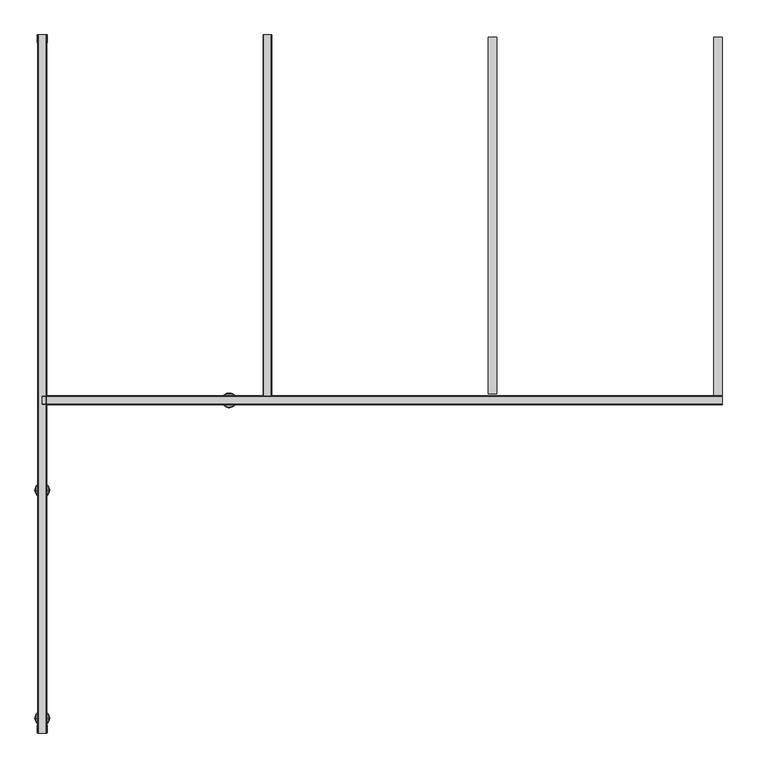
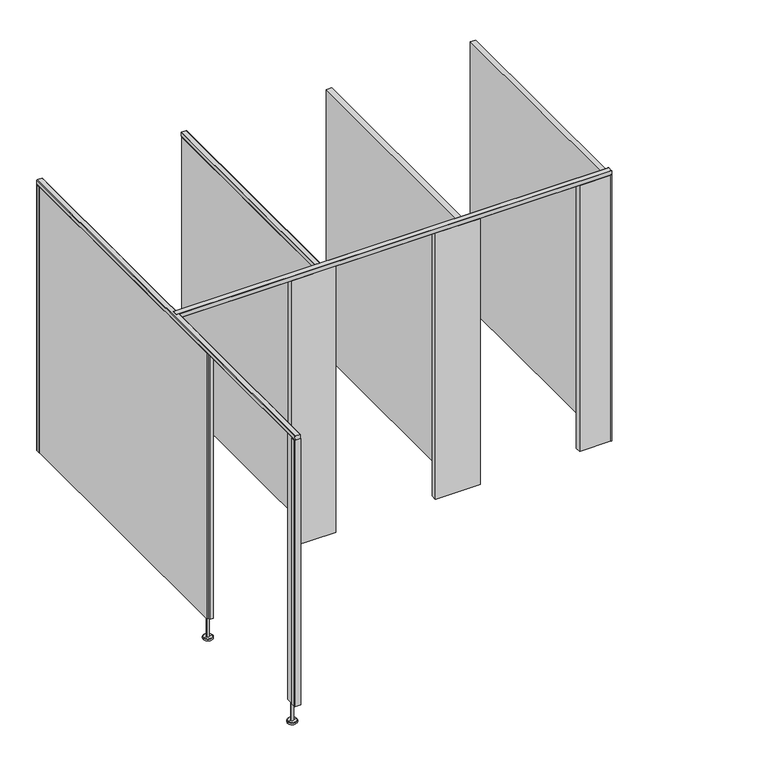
"""IFC4 building model written with IfcOpenShell, lengths in millimetres: proxy geometry, Partition_EuroStyle-Bradley_Corp-ADA_Alcove_3StandardStall-LOFT : Partition_EuroStyle-Bradley_Corp-ADA_Alcove_3StandardStall-LOFT."""

import ifcopenshell
import ifcopenshell.guid

model = None  # the IFC model being written
_history = None  # IfcOwnerHistory: only IFC2X3 demands one
_inside = {}  # id of a spatial element -> (the spatial element, [elements in it])
_under = {}  # id of a project, library or spatial element -> (it, [spatial elements below it])
_declared = {}  # id of a project -> (the project, [libraries it declares])
_typed = {}  # id of a type object -> (the type object, [elements of that type])
_made_of = {}  # id of a material, layer set ... -> (it, [elements and type objects made of it])


def new_model(schema):
    """Start an empty IFC model of exactly this schema.

    Asked for "IFC4X3", IfcOpenShell would pick the latest addendum, in which some entities
    have other attributes; the version numbers below select the first issue.
    IFC2X3 requires an IfcOwnerHistory on every rooted entity: one is made here for all.
    """
    global model, _history
    if schema == "IFC4X3":
        model = ifcopenshell.file(schema_version=(4, 3, 0, 0))
    else:
        model = ifcopenshell.file(schema=schema)
    _inside.clear()
    _under.clear()
    _declared.clear()
    _typed.clear()
    _made_of.clear()
    _history = None
    if model.schema == "IFC2X3":
        org = make("IfcOrganization", Name="unknown")
        user = make(
            "IfcPersonAndOrganization",
            ThePerson=make("IfcPerson", FamilyName="unknown"),
            TheOrganization=org,
        )
        app = make(
            "IfcApplication",
            ApplicationDeveloper=org,
            Version="unknown",
            ApplicationFullName="unknown",
            ApplicationIdentifier="unknown",
        )
        _history = make(
            "IfcOwnerHistory",
            OwningUser=user,
            OwningApplication=app,
            ChangeAction="ADDED",
            CreationDate=0,
        )
    return model


def make(cls, **values):
    """One entity of the class cls with the attributes given. An attribute that is None is left unset."""
    return model.create_entity(
        cls, **{name: value for name, value in values.items() if value is not None}
    )


def rooted(cls, **values):
    """An entity with a GlobalId (a new one), such as an element, a storey or a relation."""
    return make(cls, GlobalId=ifcopenshell.guid.new(), OwnerHistory=_history, **values)


def si_unit(unit_type, name, prefix=None):
    """IfcSIUnit, for example si_unit("LENGTHUNIT", "METRE", prefix="MILLI")."""
    return make("IfcSIUnit", UnitType=unit_type, Prefix=prefix, Name=name)


def assignment(units):
    """IfcUnitAssignment: the units of a project."""
    return None if units is None else make("IfcUnitAssignment", Units=units)


def point(xyz):
    """IfcCartesianPoint."""
    return None if xyz is None else make("IfcCartesianPoint", Coordinates=xyz)


def direction(xyz):
    """IfcDirection."""
    return None if xyz is None else make("IfcDirection", DirectionRatios=xyz)


def frame(location, z_axis=None, x_axis=None):
    """IfcAxis2Placement3D, a coordinate frame: its origin and axes. An axis left out is left unset."""
    return make(
        "IfcAxis2Placement3D",
        Location=point(location),
        Axis=direction(z_axis),
        RefDirection=direction(x_axis),
    )


def frame_2d(location, x_axis=None):
    """IfcAxis2Placement2D, a coordinate frame in the plane: its origin and x axis."""
    return make(
        "IfcAxis2Placement2D", Location=point(location), RefDirection=direction(x_axis)
    )


def origin():
    """The frame at (0, 0, 0) with its axes left unset."""
    return frame((0.0, 0.0, 0.0))


def place(relative_to, where):
    """IfcLocalPlacement: puts the frame where relative to a parent placement (None: the world)."""
    return make(
        "IfcLocalPlacement", PlacementRelTo=relative_to, RelativePlacement=where
    )


def context(
    kind, dimensions, precision=None, world=None, true_north=None, identifier=None
):
    """IfcGeometricRepresentationContext, for example the 3D "Model" context."""
    return make(
        "IfcGeometricRepresentationContext",
        ContextIdentifier=identifier,
        ContextType=kind,
        CoordinateSpaceDimension=dimensions,
        Precision=precision,
        WorldCoordinateSystem=world,
        TrueNorth=true_north,
    )


def project(units=None, contexts=None):
    """IfcProject with its units and contexts."""
    return rooted(
        "IfcProject",
        Name="project",
        RepresentationContexts=contexts,
        UnitsInContext=assignment(units),
    )


def spatial(cls, under=None, at=None, **own):
    """A site, building, storey or space (cls), placed at a placement, below another one or the project."""
    s = rooted(cls, ObjectPlacement=at, **own)
    if under is not None:
        _under.setdefault(under.id(), (under, []))[1].append(s)
    return s


def polyline(points):
    """IfcPolyline through the points."""
    return make("IfcPolyline", Points=[point(p) for p in points])


def circle_curve(where, radius):
    """IfcCircle in the frame where."""
    return make("IfcCircle", Position=where, Radius=radius)


def trimmed(basis, trim1, trim2, sense, master):
    """IfcTrimmedCurve: the piece of a basis curve between two trims."""
    return make(
        "IfcTrimmedCurve",
        BasisCurve=basis,
        Trim1=trim1,
        Trim2=trim2,
        SenseAgreement=sense,
        MasterRepresentation=master,
    )


def segment(curve, same_sense, transition):
    """IfcCompositeCurveSegment."""
    return make(
        "IfcCompositeCurveSegment",
        Transition=transition,
        SameSense=same_sense,
        ParentCurve=curve,
    )


def composite_curve(segments, self_intersect=None):
    """IfcCompositeCurve: segments joined end to end."""
    return make("IfcCompositeCurve", Segments=segments, SelfIntersect=self_intersect)


def outline(outer, holes=None, kind="AREA"):
    """IfcArbitraryClosedProfileDef: a profile drawn as a closed curve; with holes, ...WithVoids."""
    if holes is None:
        return make("IfcArbitraryClosedProfileDef", ProfileType=kind, OuterCurve=outer)
    return make(
        "IfcArbitraryProfileDefWithVoids",
        ProfileType=kind,
        OuterCurve=outer,
        InnerCurves=holes,
    )


def extrude(swept, where, along, depth):
    """IfcExtrudedAreaSolid: the profile swept, set in the frame where, extruded along a direction by depth."""
    return make(
        "IfcExtrudedAreaSolid",
        SweptArea=swept,
        Position=where,
        ExtrudedDirection=direction(along),
        Depth=depth,
    )


def shape(context_of_items, identifier, shape_type, items):
    """IfcShapeRepresentation: the items that make up one representation, for example the "Body"."""
    return make(
        "IfcShapeRepresentation",
        ContextOfItems=context_of_items,
        RepresentationIdentifier=identifier,
        RepresentationType=shape_type,
        Items=items,
    )


def source(mapping_origin, context_of_items, identifier, shape_type, items):
    """IfcRepresentationMap: a shape defined once, which mapped items show again and again."""
    return make(
        "IfcRepresentationMap",
        MappingOrigin=mapping_origin,
        MappedRepresentation=shape(context_of_items, identifier, shape_type, items),
    )


def transform(
    local_origin,
    x_axis=None,
    y_axis=None,
    z_axis=None,
    scale=None,
    scale2=None,
    scale3=None,
    uniform=True,
):
    """IfcCartesianTransformationOperator3D, or its non-uniform kind. x_axis, y_axis, z_axis: its Axis1, 2, 3."""
    if uniform:
        return make(
            "IfcCartesianTransformationOperator3D",
            Axis1=direction(x_axis),
            Axis2=direction(y_axis),
            LocalOrigin=point(local_origin),
            Scale=scale,
            Axis3=direction(z_axis),
        )
    return make(
        "IfcCartesianTransformationOperator3DnonUniform",
        Axis1=direction(x_axis),
        Axis2=direction(y_axis),
        LocalOrigin=point(local_origin),
        Scale=scale,
        Axis3=direction(z_axis),
        Scale2=scale2,
        Scale3=scale3,
    )


def mapped(mapping_source, mapping_target):
    """IfcMappedItem: shows the shape of a source again, moved by a transform."""
    return make(
        "IfcMappedItem", MappingSource=mapping_source, MappingTarget=mapping_target
    )


def made_of(thing, what):
    """Note that an element or type object is made of a material, layer set ...; save() writes the relation."""
    if what is not None:
        _made_of.setdefault(what.id(), (what, []))[1].append(thing)
    return thing


def element(
    cls,
    number,
    at=None,
    inside=None,
    cuts=None,
    type_object=None,
    material=None,
    context=None,
    identifier="Body",
    shape_type=None,
    held_by="IfcProductDefinitionShape",
    body=None,
    shapes=None,
    **own,
):
    """One element of the class cls, such as IfcWall. Its Tag is "e" and its number.

    at: its placement. inside: the storey or other place that contains it. cuts: it is an
    opening in that element (IfcRelVoidsElement). A single representation is given by context,
    identifier, shape_type and body (its items); several are given by shapes. held_by: the class
    of the entity that holds the representations. save() writes the other relations.
    """
    e = rooted(cls, Tag="e%d" % number, ObjectPlacement=at, **own)
    if body is not None:
        shapes = [shape(context, identifier, shape_type, body)]
    if shapes is not None:
        e.Representation = make(held_by, Representations=shapes)
    if inside is not None:
        _inside.setdefault(inside.id(), (inside, []))[1].append(e)
    if cuts is not None:
        rooted(
            "IfcRelVoidsElement", RelatingBuildingElement=cuts, RelatedOpeningElement=e
        )
    if type_object is not None:
        _typed.setdefault(type_object.id(), (type_object, []))[1].append(e)
    return made_of(e, material)


def aggregate(whole, parts):
    """IfcRelAggregates: a whole, such as a stair, and the parts it consists of."""
    return rooted("IfcRelAggregates", RelatingObject=whole, RelatedObjects=parts)


def save(model, path):
    """Write the relations noted so far, then the file.

    IfcRelAggregates (storeys below a building ...), IfcRelContainedInSpatialStructure (elements
    in a storey), IfcRelDefinesByType, IfcRelAssociatesMaterial and IfcRelDeclares: one each for
    every whole, place, type object, material and project.
    """
    for whole, parts in _under.values():
        aggregate(whole, parts)
    for where, things in _inside.values():
        rooted(
            "IfcRelContainedInSpatialStructure",
            RelatedElements=things,
            RelatingStructure=where,
        )
    for kind, things in _typed.values():
        rooted("IfcRelDefinesByType", RelatedObjects=things, RelatingType=kind)
    for what, things in _made_of.values():
        rooted("IfcRelAssociatesMaterial", RelatedObjects=things, RelatingMaterial=what)
    for by, libraries in _declared.values():
        rooted("IfcRelDeclares", RelatingContext=by, RelatedDefinitions=libraries)
    model.write(path)


def plane_surface(at):
    """IfcPlane: the flat surface through the origin of the frame at, square to its z axis."""
    return make("IfcPlane", Position=at)


def cylinder_surface(at, radius):
    """IfcCylindricalSurface: all points at the distance radius from the z axis of the frame at."""
    return make("IfcCylindricalSurface", Position=at, Radius=radius)


def revolved_surface(curve, axis_point, axis_direction):
    """IfcSurfaceOfRevolution: the curve turned about the line through axis_point along axis_direction."""
    return make(
        "IfcSurfaceOfRevolution",
        SweptCurve=make("IfcArbitraryOpenProfileDef", ProfileType="CURVE", Curve=curve),
        AxisPosition=make("IfcAxis1Placement", Location=point(axis_point), Axis=direction(axis_direction)),
    )


def advanced_brep(points, edges, surfaces, faces):
    """IfcAdvancedBrep: a solid bounded by faces that lie on surfaces and meet in shared edges.

    An edge is (start, end): straight between two places in points (the first is 0);
    or (start, end, curve); or (start, end, curve, False) where it runs against its curve.
    A face is (place in surfaces, loops), or (place, loops, False) where it looks against
    its surface's normal. A loop lists edges by number (the first is 1), with a minus sign
    where the edge is run from its end to its start. The first loop is the outer one.
    """
    corners = [point(p) for p in points]
    vertices = [make("IfcVertexPoint", VertexGeometry=c) for c in corners]
    made = []
    for start, end, *more in edges:
        made.append(
            make(
                "IfcEdgeCurve",
                EdgeStart=vertices[start],
                EdgeEnd=vertices[end],
                EdgeGeometry=more[0] if more else make("IfcPolyline", Points=[corners[start], corners[end]]),
                SameSense=more[1] if len(more) > 1 else True,
            )
        )
    hull = []
    for where, loops, *sense in faces:
        bounds = []
        for j, loop in enumerate(loops):
            ring = [make("IfcOrientedEdge", EdgeElement=made[abs(k) - 1], Orientation=k > 0) for k in loop]
            bounds.append(
                make(
                    "IfcFaceOuterBound" if j == 0 else "IfcFaceBound",
                    Bound=make("IfcEdgeLoop", EdgeList=ring),
                    Orientation=True,
                )
            )
        hull.append(make("IfcAdvancedFace", Bounds=bounds, FaceSurface=surfaces[where], SameSense=sense[0] if sense else True))
    return make("IfcAdvancedBrep", Outer=make("IfcClosedShell", CfsFaces=hull))


def specialty_equipment_9ecc551c(model_context):
    return source(origin(), model_context, "Body", "SolidModel", [
        advanced_brep(
        [(1558.4101629, -2882.9018313, 150.0000008), (1576.4101623, -2882.9018313, 150.0000008), (1576.4101623, -2882.9018313, 12.0000001), (1558.4101629, -2882.9018313, 12.0000001), (1567.4101626, -2882.9018313, 150.0000008), (1536.4101636, -2882.9018313, 0.0), (1598.4101615, -2882.9018313, 0.0), (1567.4101626, -2882.9018313, 0.0), (1536.4101636, -2882.9018313, 10.0000001), (1598.4101615, -2882.9018313, 10.0000001), (1538.4125756, -2882.9018313, 12.0000001), (1596.4077496, -2882.9018313, 12.0000001)],
        [
            (0, 1, circle_curve(frame((1567.4101626, -2882.9018313, 150.0000008), z_axis=(0.0, 0.0, -1.0), x_axis=(1.0, 0.0, 0.0)), 8.9999997)),
            (1, 2),
            (2, 3, circle_curve(frame((1567.4101626, -2882.9018313, 12.0000001), z_axis=(0.0, 0.0, 1.0), x_axis=(1.0, 0.0, 0.0)), 8.9999997)),
            (3, 0),
            (1, 0, circle_curve(frame((1567.4101626, -2882.9018313, 150.0000008), z_axis=(0.0, 0.0, -1.0), x_axis=(1.0, 0.0, 0.0)), 8.9999997)),
            (3, 2, circle_curve(frame((1567.4101626, -2882.9018313, 12.0000001), z_axis=(0.0, 0.0, 1.0), x_axis=(1.0, 0.0, 0.0)), 8.9999997)),
            (4, 1),
            (0, 4),
            (5, 6, circle_curve(frame((1567.4101626, -2882.9018313, 0.0), z_axis=(0.0, 0.0, -1.0), x_axis=(1.0, 0.0, 0.0)), 30.9999989)),
            (6, 7),
            (7, 5),
            (6, 5, circle_curve(frame((1567.4101626, -2882.9018313, 0.0), z_axis=(0.0, 0.0, -1.0), x_axis=(1.0, 0.0, 0.0)), 30.9999989)),
            (8, 9, circle_curve(frame((1567.4101626, -2882.9018313, 10.0000001), z_axis=(0.0, 0.0, -1.0), x_axis=(1.0, 0.0, 0.0)), 30.9999989)),
            (9, 6),
            (5, 8),
            (9, 8, circle_curve(frame((1567.4101626, -2882.9018313, 10.0000001), z_axis=(0.0, 0.0, -1.0), x_axis=(1.0, 0.0, 0.0)), 30.9999989)),
            (10, 11, circle_curve(frame((1567.4101626, -2882.9018313, 12.0000001), z_axis=(0.0, 0.0, -1.0), x_axis=(1.0, 0.0, 0.0)), 28.997587)),
            (11, 9),
            (8, 10),
            (11, 10, circle_curve(frame((1567.4101626, -2882.9018313, 12.0000001), z_axis=(0.0, 0.0, -1.0), x_axis=(1.0, 0.0, 0.0)), 28.997587)),
            (2, 11),
            (10, 3),
        ],
        [
            cylinder_surface(frame((1567.4101626, -2882.9018313, 0.0), z_axis=(0.0, 0.0, 1.0), x_axis=(1.0, 0.0, 0.0)), 8.9999997),
            plane_surface(frame((1567.4101626, -2882.9018313, 150.0000008), z_axis=(0.0, 0.0, 1.0), x_axis=(1.0, 0.0, 0.0))),
            plane_surface(frame((1567.4101626, -2882.9018313, 0.0), z_axis=(0.0, 0.0, -1.0), x_axis=(1.0, 0.0, 0.0))),
            cylinder_surface(frame((1567.4101626, -2882.9018313, 0.0), z_axis=(0.0, 0.0, 1.0), x_axis=(1.0, 0.0, 0.0)), 30.9999989),
            revolved_surface(polyline([(1598.4101615, -2882.9018313, 10.0000001), (1596.4077496, -2882.9018313, 12.0000001)]), (1567.4101626, -2882.9018313, 0.0), (0.0, 0.0, 1.0)),
            plane_surface(frame((1567.4101626, -2882.9018313, 12.0000001), z_axis=(0.0, 0.0, 1.0), x_axis=(1.0, 0.0, 0.0))),
        ],
        [
            (0, [[1, 2, 3, 4]]),
            (0, [[5, -4, 6, -2]]),
            (1, [[7, -1, 8]]),
            (1, [[-8, -5, -7]]),
            (2, [[9, 10, 11]]),
            (2, [[12, -11, -10]]),
            (3, [[13, 14, -9, 15]]),
            (3, [[16, -15, -12, -14]]),
            (4, [[17, 18, -13, 19]]),
            (4, [[20, -19, -16, -18]]),
            (5, [[-3, 21, -17, 22]]),
            (5, [[-6, -22, -20, -21]]),
        ],
    ),
        extrude(outline(composite_curve([segment(polyline([(1546.918717, -2913.8999998), (1548.4173026, -2913.8999998)]), True, "CONTINUOUS"), segment(trimmed(circle_curve(frame_2d((1548.4137352, -2914.8990918)), 0.9990984), [point((1548.4173026, -2913.8999998))], [point((1548.8873879, -2915.7787798))], False, "CARTESIAN"), True, "CONTINUOUS"), segment(polyline([(1548.8873879, -2915.7787798), (1548.7662779, -2923.0424298)]), True, "CONTINUOUS"), segment(trimmed(circle_curve(frame_2d((1548.248732, -2923.8999449)), 1.0015917), [point((1548.7662779, -2923.0424298))], [point((1548.7373979, -2924.7742398))], False, "CARTESIAN"), True, "CONTINUOUS"), segment(polyline([(1548.7373979, -2924.7742398), (1548.4433424, -2942.4104531)]), True, "CONTINUOUS"), segment(trimmed(circle_curve(frame_2d((1550.4435342, -2942.3997796)), 2.0002204), [point((1548.4433424, -2942.4104531))], [point((1550.4435342, -2944.4))], True, "CARTESIAN"), True, "CONTINUOUS"), segment(polyline([(1550.4435342, -2944.4), (1584.3278332, -2944.4)]), True, "CONTINUOUS"), segment(trimmed(circle_curve(frame_2d((1584.3768528, -2942.4009061)), 1.9996948), [point((1584.3278332, -2944.4))], [point((1586.3765475, -2942.4))], True, "CARTESIAN"), True, "CONTINUOUS"), segment(polyline([(1586.3765475, -2942.4), (1586.0824961, -2924.7739987)]), True, "CONTINUOUS"), segment(trimmed(circle_curve(frame_2d((1586.5715932, -2923.8999449)), 1.0015917), [point((1586.0824961, -2924.7739987))], [point((1586.0540473, -2923.0424298))], False, "CARTESIAN"), True, "CONTINUOUS"), segment(polyline([(1586.0540473, -2923.0424298), (1585.9329373, -2915.7787798)]), True, "CONTINUOUS"), segment(trimmed(circle_curve(frame_2d((1586.4065899, -2914.8990918)), 0.9990984), [point((1585.9329373, -2915.7787798))], [point((1586.4030225, -2913.8999998))], False, "CARTESIAN"), True, "CONTINUOUS"), segment(polyline([(1586.4030225, -2913.8999998), (1587.9016081, -2913.8999998), (1588.4099473, -2944.37082)]), True, "CONTINUOUS"), segment(trimmed(circle_curve(frame_2d((1586.3807672, -2944.37082)), 2.02918), [point((1588.4099473, -2944.37082))], [point((1586.3807672, -2946.4))], False, "CARTESIAN"), True, "CONTINUOUS"), segment(polyline([(1586.3807672, -2946.4), (1548.4395579, -2946.4)]), True, "CONTINUOUS"), segment(trimmed(circle_curve(frame_2d((1548.4395579, -2944.37082)), 2.02918), [point((1548.4395579, -2946.4))], [point((1546.4103779, -2944.37082))], False, "CARTESIAN"), True, "CONTINUOUS"), segment(polyline([(1546.4103779, -2944.37082), (1546.918717, -2913.8999998)]), True, "CONTINUOUS")], self_intersect=False)), frame((0.0, 0.0, 150.0), z_axis=(0.0, 0.0, 1.0), x_axis=(1.0, 0.0, 0.0)), (0.0, 0.0, 1.0), 1855.0),
        extrude(outline(polyline([(1549.4, -2936.400072), (1549.4, -2862.4032348), (1585.4203251, -2862.4032348), (1585.4203251, -2936.400072), (1549.4, -2936.400072)])), frame((0.0, 0.0, 150.0), z_axis=(0.0, 0.0, 1.0), x_axis=(1.0, 0.0, 0.0)), (0.0, 0.0, 1.0), 1855.0),
        extrude(outline(composite_curve([segment(polyline([(1546.918717, -32.5000002), (1546.4103779, -2.02918)]), True, "CONTINUOUS"), segment(trimmed(circle_curve(frame_2d((1548.4395579, -2.02918)), 2.02918), [point((1546.4103779, -2.02918))], [point((1548.4395579, 0.0))], False, "CARTESIAN"), True, "CONTINUOUS"), segment(polyline([(1548.4395579, 0.0), (1586.3807672, 0.0)]), True, "CONTINUOUS"), segment(trimmed(circle_curve(frame_2d((1586.3807672, -2.02918)), 2.02918), [point((1586.3807672, 0.0))], [point((1588.4099473, -2.02918))], False, "CARTESIAN"), True, "CONTINUOUS"), segment(polyline([(1588.4099473, -2.02918), (1587.9016081, -32.5000002), (1586.4030225, -32.5000002)]), True, "CONTINUOUS"), segment(trimmed(circle_curve(frame_2d((1586.4065899, -31.5009082)), 0.9990984), [point((1586.4030225, -32.5000002))], [point((1585.9329373, -30.6212202))], False, "CARTESIAN"), True, "CONTINUOUS"), segment(polyline([(1585.9329373, -30.6212202), (1586.0540473, -23.3575702)]), True, "CONTINUOUS"), segment(trimmed(circle_curve(frame_2d((1586.5715932, -22.5000551)), 1.0015917), [point((1586.0540473, -23.3575702))], [point((1586.0824961, -21.6260013))], False, "CARTESIAN"), True, "CONTINUOUS"), segment(polyline([(1586.0824961, -21.6260013), (1586.3765475, -4.0)]), True, "CONTINUOUS"), segment(trimmed(circle_curve(frame_2d((1584.3768528, -3.9990939)), 1.9996948), [point((1586.3765475, -4.0))], [point((1584.3278332, -2.0))], True, "CARTESIAN"), True, "CONTINUOUS"), segment(polyline([(1584.3278332, -2.0), (1550.4435342, -2.0)]), True, "CONTINUOUS"), segment(trimmed(circle_curve(frame_2d((1550.4435342, -4.0002204)), 2.0002204), [point((1550.4435342, -2.0))], [point((1548.4433424, -3.9895469))], True, "CARTESIAN"), True, "CONTINUOUS"), segment(polyline([(1548.4433424, -3.9895469), (1548.7373979, -21.6257602)]), True, "CONTINUOUS"), segment(trimmed(circle_curve(frame_2d((1548.248732, -22.5000551)), 1.0015917), [point((1548.7373979, -21.6257602))], [point((1548.7662779, -23.3575702))], False, "CARTESIAN"), True, "CONTINUOUS"), segment(polyline([(1548.7662779, -23.3575702), (1548.8873879, -30.6212202)]), True, "CONTINUOUS"), segment(trimmed(circle_curve(frame_2d((1548.4137352, -31.5009082)), 0.9990984), [point((1548.8873879, -30.6212202))], [point((1548.4173026, -32.5000002))], False, "CARTESIAN"), True, "CONTINUOUS"), segment(polyline([(1548.4173026, -32.5000002), (1546.918717, -32.5000002)]), True, "CONTINUOUS")], self_intersect=False)), frame((0.0, 0.0, 150.0), z_axis=(0.0, 0.0, 1.0), x_axis=(1.0, 0.0, 0.0)), (0.0, 0.0, 1.0), 1855.0),
        extrude(outline(composite_curve([segment(polyline([(2032.9666591, 2499.8203701), (2005.7492965, 2500.2741806)]), True, "CONTINUOUS"), segment(trimmed(circle_curve(frame_2d((2005.762, 2501.0360747)), 0.762), [point((2005.7492965, 2500.2741806))], [point((2005.0, 2501.0360747))], False, "CARTESIAN"), True, "CONTINUOUS"), segment(polyline([(2005.0, 2501.0360747), (2005.0, 2534.5733505)]), True, "CONTINUOUS"), segment(trimmed(circle_curve(frame_2d((2005.79375, 2534.5733505)), 0.79375), [point((2005.0, 2534.5733505))], [point((2005.7805172, 2535.3669902))], False, "CARTESIAN"), True, "CONTINUOUS"), segment(polyline([(2005.7805172, 2535.3669902), (2032.9666591, 2535.8202802)]), True, "CONTINUOUS"), segment(trimmed(circle_curve(frame_2d((2033.0000015, 2533.8205597)), 1.9999985), [point((2032.9666591, 2535.8202802))], [point((2035.0, 2533.8205597))], False, "CARTESIAN"), True, "CONTINUOUS"), segment(polyline([(2035.0, 2533.8205597), (2035.0, 2501.8200907)]), True, "CONTINUOUS"), segment(trimmed(circle_curve(frame_2d((2033.0000015, 2501.8200907)), 1.9999985), [point((2035.0, 2501.8200907))], [point((2032.9666591, 2499.8203701))], False, "CARTESIAN"), True, "CONTINUOUS")], self_intersect=False)), frame((0.0, -1524.0, 0.0), z_axis=(0.0, 1.0, 0.0), x_axis=(0.0, 0.0, 1.0)), (0.0, 0.0, 1.0), 1524.0),
        advanced_brep(
        [(1558.4101629, -1920.8766828, 150.0000008), (1576.4101623, -1920.8766828, 150.0000008), (1576.4101623, -1920.8766828, 12.0000001), (1558.4101629, -1920.8766828, 12.0000001), (1567.4101626, -1920.8766828, 150.0000008), (1536.4101636, -1920.8766828, 0.0), (1598.4101615, -1920.8766828, 0.0), (1567.4101626, -1920.8766828, 0.0), (1536.4101636, -1920.8766828, 10.0000001), (1598.4101615, -1920.8766828, 10.0000001), (1538.4125756, -1920.8766828, 12.0000001), (1596.4077496, -1920.8766828, 12.0000001)],
        [
            (0, 1, circle_curve(frame((1567.4101626, -1920.8766828, 150.0000008), z_axis=(0.0, 0.0, -1.0), x_axis=(1.0, 0.0, 0.0)), 8.9999997)),
            (1, 2),
            (2, 3, circle_curve(frame((1567.4101626, -1920.8766828, 12.0000001), z_axis=(0.0, 0.0, 1.0), x_axis=(1.0, 0.0, 0.0)), 8.9999997)),
            (3, 0),
            (1, 0, circle_curve(frame((1567.4101626, -1920.8766828, 150.0000008), z_axis=(0.0, 0.0, -1.0), x_axis=(1.0, 0.0, 0.0)), 8.9999997)),
            (3, 2, circle_curve(frame((1567.4101626, -1920.8766828, 12.0000001), z_axis=(0.0, 0.0, 1.0), x_axis=(1.0, 0.0, 0.0)), 8.9999997)),
            (4, 1),
            (0, 4),
            (5, 6, circle_curve(frame((1567.4101626, -1920.8766828, 0.0), z_axis=(0.0, 0.0, -1.0), x_axis=(1.0, 0.0, 0.0)), 30.9999989)),
            (6, 7),
            (7, 5),
            (6, 5, circle_curve(frame((1567.4101626, -1920.8766828, 0.0), z_axis=(0.0, 0.0, -1.0), x_axis=(1.0, 0.0, 0.0)), 30.9999989)),
            (8, 9, circle_curve(frame((1567.4101626, -1920.8766828, 10.0000001), z_axis=(0.0, 0.0, -1.0), x_axis=(1.0, 0.0, 0.0)), 30.9999989)),
            (9, 6),
            (5, 8),
            (9, 8, circle_curve(frame((1567.4101626, -1920.8766828, 10.0000001), z_axis=(0.0, 0.0, -1.0), x_axis=(1.0, 0.0, 0.0)), 30.9999989)),
            (10, 11, circle_curve(frame((1567.4101626, -1920.8766828, 12.0000001), z_axis=(0.0, 0.0, -1.0), x_axis=(1.0, 0.0, 0.0)), 28.997587)),
            (11, 9),
            (8, 10),
            (11, 10, circle_curve(frame((1567.4101626, -1920.8766828, 12.0000001), z_axis=(0.0, 0.0, -1.0), x_axis=(1.0, 0.0, 0.0)), 28.997587)),
            (2, 11),
            (10, 3),
        ],
        [
            cylinder_surface(frame((1567.4101626, -1920.8766828, 0.0), z_axis=(0.0, 0.0, 1.0), x_axis=(1.0, 0.0, 0.0)), 8.9999997),
            plane_surface(frame((1567.4101626, -1920.8766828, 150.0000008), z_axis=(0.0, 0.0, 1.0), x_axis=(1.0, 0.0, 0.0))),
            plane_surface(frame((1567.4101626, -1920.8766828, 0.0), z_axis=(0.0, 0.0, -1.0), x_axis=(1.0, 0.0, 0.0))),
            cylinder_surface(frame((1567.4101626, -1920.8766828, 0.0), z_axis=(0.0, 0.0, 1.0), x_axis=(1.0, 0.0, 0.0)), 30.9999989),
            revolved_surface(polyline([(1598.4101615, -1920.8766828, 10.0000001), (1596.4077496, -1920.8766828, 12.0000001)]), (1567.4101626, -1920.8766828, 0.0), (0.0, 0.0, 1.0)),
            plane_surface(frame((1567.4101626, -1920.8766828, 12.0000001), z_axis=(0.0, 0.0, 1.0), x_axis=(1.0, 0.0, 0.0))),
        ],
        [
            (0, [[1, 2, 3, 4]]),
            (0, [[5, -4, 6, -2]]),
            (1, [[7, -1, 8]]),
            (1, [[-8, -5, -7]]),
            (2, [[9, 10, 11]]),
            (2, [[12, -11, -10]]),
            (3, [[13, 14, -9, 15]]),
            (3, [[16, -15, -12, -14]]),
            (4, [[17, 18, -13, 19]]),
            (4, [[20, -19, -16, -18]]),
            (5, [[-3, 21, -17, 22]]),
            (5, [[-6, -22, -20, -21]]),
        ],
    ),
        extrude(outline(composite_curve([segment(polyline([(-1523.9996998, 2032.9666591), (-1524.4535103, 2005.7492965)]), True, "CONTINUOUS"), segment(trimmed(circle_curve(frame_2d((-1525.2154044, 2005.762)), 0.762), [point((-1524.4535103, 2005.7492965))], [point((-1525.2154044, 2005.0))], False, "CARTESIAN"), True, "CONTINUOUS"), segment(polyline([(-1525.2154044, 2005.0), (-1558.7526802, 2005.0)]), True, "CONTINUOUS"), segment(trimmed(circle_curve(frame_2d((-1558.7526802, 2005.79375)), 0.79375), [point((-1558.7526802, 2005.0))], [point((-1559.5463199, 2005.7805172))], False, "CARTESIAN"), True, "CONTINUOUS"), segment(polyline([(-1559.5463199, 2005.7805172), (-1559.9996099, 2032.9666591)]), True, "CONTINUOUS"), segment(trimmed(circle_curve(frame_2d((-1557.9998894, 2033.0000015)), 1.9999985), [point((-1559.9996099, 2032.9666591))], [point((-1557.9998894, 2035.0))], False, "CARTESIAN"), True, "CONTINUOUS"), segment(polyline([(-1557.9998894, 2035.0), (-1525.9994204, 2035.0)]), True, "CONTINUOUS"), segment(trimmed(circle_curve(frame_2d((-1525.9994204, 2033.0000015)), 1.9999985), [point((-1525.9994204, 2035.0))], [point((-1523.9996998, 2032.9666591))], False, "CARTESIAN"), True, "CONTINUOUS")], self_intersect=False)), frame((1567.4101626, 0.0, 0.0), z_axis=(1.0, 0.0, 0.0), x_axis=(0.0, 1.0, 0.0)), (0.0, 0.0, 1.0), 2869.2101626),
        extrude(outline(composite_curve([segment(polyline([(2032.9666591, 1549.4102076), (2005.7492965, 1549.8640181)]), True, "CONTINUOUS"), segment(trimmed(circle_curve(frame_2d((2005.762, 1550.6259122)), 0.762), [point((2005.7492965, 1549.8640181))], [point((2005.0, 1550.6259122))], False, "CARTESIAN"), True, "CONTINUOUS"), segment(polyline([(2005.0, 1550.6259122), (2005.0, 1584.163188)]), True, "CONTINUOUS"), segment(trimmed(circle_curve(frame_2d((2005.79375, 1584.163188)), 0.79375), [point((2005.0, 1584.163188))], [point((2005.7805172, 1584.9568277))], False, "CARTESIAN"), True, "CONTINUOUS"), segment(polyline([(2005.7805172, 1584.9568277), (2032.9666591, 1585.4101176)]), True, "CONTINUOUS"), segment(trimmed(circle_curve(frame_2d((2033.0000015, 1583.4103971)), 1.9999985), [point((2032.9666591, 1585.4101176))], [point((2035.0, 1583.4103971))], False, "CARTESIAN"), True, "CONTINUOUS"), segment(polyline([(2035.0, 1583.4103971), (2035.0, 1551.4099281)]), True, "CONTINUOUS"), segment(trimmed(circle_curve(frame_2d((2033.0000015, 1551.4099281)), 1.9999985), [point((2035.0, 1551.4099281))], [point((2032.9666591, 1549.4102076))], False, "CARTESIAN"), True, "CONTINUOUS")], self_intersect=False)), frame((0.0, -2946.4, 0.0), z_axis=(0.0, 1.0, 0.0), x_axis=(0.0, 0.0, 1.0)), (0.0, 0.0, 1.0), 2946.4),
        advanced_brep(
        [(2347.4453255, -1541.9996549, 150.0000008), (2365.4453248, -1541.9996549, 150.0000008), (2365.4453248, -1541.9996549, 12.0000001), (2347.4453255, -1541.9996549, 12.0000001), (2356.4453251, -1541.9996549, 150.0000008), (2325.4453262, -1541.9996549, 0.0), (2387.4453241, -1541.9996549, 0.0), (2356.4453251, -1541.9996549, 0.0), (2325.4453262, -1541.9996549, 10.0000001), (2387.4453241, -1541.9996549, 10.0000001), (2327.4477381, -1541.9996549, 12.0000001), (2385.4429122, -1541.9996549, 12.0000001)],
        [
            (0, 1, circle_curve(frame((2356.4453251, -1541.9996549, 150.0000008), z_axis=(0.0, 0.0, -1.0), x_axis=(1.0, 0.0, 0.0)), 8.9999997)),
            (1, 2),
            (2, 3, circle_curve(frame((2356.4453251, -1541.9996549, 12.0000001), z_axis=(0.0, 0.0, 1.0), x_axis=(1.0, 0.0, 0.0)), 8.9999997)),
            (3, 0),
            (1, 0, circle_curve(frame((2356.4453251, -1541.9996549, 150.0000008), z_axis=(0.0, 0.0, -1.0), x_axis=(1.0, 0.0, 0.0)), 8.9999997)),
            (3, 2, circle_curve(frame((2356.4453251, -1541.9996549, 12.0000001), z_axis=(0.0, 0.0, 1.0), x_axis=(1.0, 0.0, 0.0)), 8.9999997)),
            (4, 1),
            (0, 4),
            (5, 6, circle_curve(frame((2356.4453251, -1541.9996549, 0.0), z_axis=(0.0, 0.0, -1.0), x_axis=(1.0, 0.0, 0.0)), 30.9999989)),
            (6, 7),
            (7, 5),
            (6, 5, circle_curve(frame((2356.4453251, -1541.9996549, 0.0), z_axis=(0.0, 0.0, -1.0), x_axis=(1.0, 0.0, 0.0)), 30.9999989)),
            (8, 9, circle_curve(frame((2356.4453251, -1541.9996549, 10.0000001), z_axis=(0.0, 0.0, -1.0), x_axis=(1.0, 0.0, 0.0)), 30.9999989)),
            (9, 6),
            (5, 8),
            (9, 8, circle_curve(frame((2356.4453251, -1541.9996549, 10.0000001), z_axis=(0.0, 0.0, -1.0), x_axis=(1.0, 0.0, 0.0)), 30.9999989)),
            (10, 11, circle_curve(frame((2356.4453251, -1541.9996549, 12.0000001), z_axis=(0.0, 0.0, -1.0), x_axis=(1.0, 0.0, 0.0)), 28.997587)),
            (11, 9),
            (8, 10),
            (11, 10, circle_curve(frame((2356.4453251, -1541.9996549, 12.0000001), z_axis=(0.0, 0.0, -1.0), x_axis=(1.0, 0.0, 0.0)), 28.997587)),
            (2, 11),
            (10, 3),
        ],
        [
            cylinder_surface(frame((2356.4453251, -1541.9996549, 0.0), z_axis=(0.0, 0.0, 1.0), x_axis=(1.0, 0.0, 0.0)), 8.9999997),
            plane_surface(frame((2356.4453251, -1541.9996549, 150.0000008), z_axis=(0.0, 0.0, 1.0), x_axis=(1.0, 0.0, 0.0))),
            plane_surface(frame((2356.4453251, -1541.9996549, 0.0), z_axis=(0.0, 0.0, -1.0), x_axis=(1.0, 0.0, 0.0))),
            cylinder_surface(frame((2356.4453251, -1541.9996549, 0.0), z_axis=(0.0, 0.0, 1.0), x_axis=(1.0, 0.0, 0.0)), 30.9999989),
            revolved_surface(polyline([(2387.4453241, -1541.9996549, 10.0000001), (2385.4429122, -1541.9996549, 12.0000001)]), (2356.4453251, -1541.9996549, 0.0), (0.0, 0.0, 1.0)),
            plane_surface(frame((2356.4453251, -1541.9996549, 12.0000001), z_axis=(0.0, 0.0, 1.0), x_axis=(1.0, 0.0, 0.0))),
        ],
        [
            (0, [[1, 2, 3, 4]]),
            (0, [[5, -4, 6, -2]]),
            (1, [[7, -1, 8]]),
            (1, [[-8, -5, -7]]),
            (2, [[9, 10, 11]]),
            (2, [[12, -11, -10]]),
            (3, [[13, 14, -9, 15]]),
            (3, [[16, -15, -12, -14]]),
            (4, [[17, 18, -13, 19]]),
            (4, [[20, -19, -16, -18]]),
            (5, [[-3, 21, -17, 22]]),
            (5, [[-6, -22, -20, -21]]),
        ],
    ),
        extrude(outline(polyline([(2619.8170903, -1524.0), (2619.8170903, -1559.9996549), (2324.5201766, -1559.9996549), (2324.5201766, -1524.0), (2619.8170903, -1524.0)])), frame((0.0, 0.0, 150.0), z_axis=(0.0, 0.0, 1.0), x_axis=(1.0, 0.0, 0.0)), (0.0, 0.0, 1.0), 1855.0),
        extrude(outline(polyline([(3570.2170903, -1524.0), (3570.2170903, -1559.9996549), (3274.9201766, -1559.9996549), (3274.9201766, -1524.0), (3570.2170903, -1524.0)])), frame((0.0, 0.0, 150.0), z_axis=(0.0, 0.0, 1.0), x_axis=(1.0, 0.0, 0.0)), (0.0, 0.0, 1.0), 1855.0),
        extrude(outline(polyline([(4436.6203251, -1555.2473174), (4436.6203251, -1559.9996099), (4431.8578251, -1559.9996099), (4431.8578251, -1555.2473174), (4436.6203251, -1555.2473174)])), frame((0.0, 0.0, 150.0), z_axis=(0.0, 0.0, 1.0), x_axis=(1.0, 0.0, 0.0)), (0.0, 0.0, 1.0), 1855.0),
        extrude(outline(polyline([(4225.3201766, -1524.0), (4400.6105077, -1524.0), (4431.8578251, -1555.2473174), (4431.8578251, -1559.9996549), (4225.3201766, -1559.9996549), (4225.3201766, -1524.0)])), frame((0.0, 0.0, 150.0), z_axis=(0.0, 0.0, 1.0), x_axis=(1.0, 0.0, 0.0)), (0.0, 0.0, 1.0), 1855.0),
        extrude(outline(polyline([(4400.6203251, -1524.0098174), (4400.6203251, -9.9993891), (4436.6203251, -9.9993891), (4436.6203251, -1555.2473174), (4431.8578251, -1555.2473174), (4400.6203251, -1524.0098174)])), frame((0.0, 0.0, 150.0), z_axis=(0.0, 0.0, 1.0), x_axis=(1.0, 0.0, 0.0)), (0.0, 0.0, 1.0), 1855.0),
        extrude(outline(polyline([(3450.2203251, -1514.0), (3450.2203251, -9.9993891), (3486.2203251, -9.9993891), (3486.2203251, -1514.0), (3450.2203251, -1514.0)])), frame((0.0, 0.0, 150.0), z_axis=(0.0, 0.0, 1.0), x_axis=(1.0, 0.0, 0.0)), (0.0, 0.0, 1.0), 1855.0),
        extrude(outline(polyline([(2499.8203251, -1514.0), (2499.8203251, -9.9993891), (2535.8203251, -9.9993891), (2535.8203251, -1514.0), (2499.8203251, -1514.0)])), frame((0.0, 0.0, 150.0), z_axis=(0.0, 0.0, 1.0), x_axis=(1.0, 0.0, 0.0)), (0.0, 0.0, 1.0), 1855.0),
        extrude(outline(polyline([(1549.4, -1938.4920045), (1549.4, -9.9993891), (1585.4203251, -9.9993891), (1585.4203251, -1952.5791451), (1560.4056866, -1952.5791451), (1560.4056866, -1938.4920045), (1549.4, -1938.4920045)])), frame((0.0, 0.0, 150.0), z_axis=(0.0, 0.0, 1.0), x_axis=(1.0, 0.0, 0.0)), (0.0, 0.0, 1.0), 1855.0),
    ])


if __name__ == "__main__":
    model = new_model("IFC4")
    model_context = context("Model", 3, world=origin())
    ifc_project = project(units=[si_unit("LENGTHUNIT", "METRE", prefix="MILLI")], contexts=[model_context])
    site = spatial("IfcSite", under=ifc_project)
    building = spatial("IfcBuilding", under=site)
    placement = place(None, origin())
    specialty_equipment_shape = specialty_equipment_9ecc551c(model_context)
    element("IfcBuildingElementProxy", 1, Name="Partition_EuroStyle-Bradley_Corp-ADA_Alcove_3StandardStall-LOFT : Partition_EuroStyle-Bradley_Corp-ADA_Alcove_3StandardStall-LOFT", ObjectType="Partition_EuroStyle-Bradley_Corp-ADA_Alcove_3StandardStall-LOFT : Partition_EuroStyle-Bradley_Corp-ADA_Alcove_3StandardStall-LOFT", at=placement, inside=building, context=model_context, shape_type="MappedRepresentation", body=[
        mapped(specialty_equipment_shape, transform((0.0, 0.0, 0.0), x_axis=(1.0, 0.0, 0.0), y_axis=(0.0, 1.0, 0.0), z_axis=(0.0, 0.0, 1.0))),
    ])
    save(model, "model.ifc")
